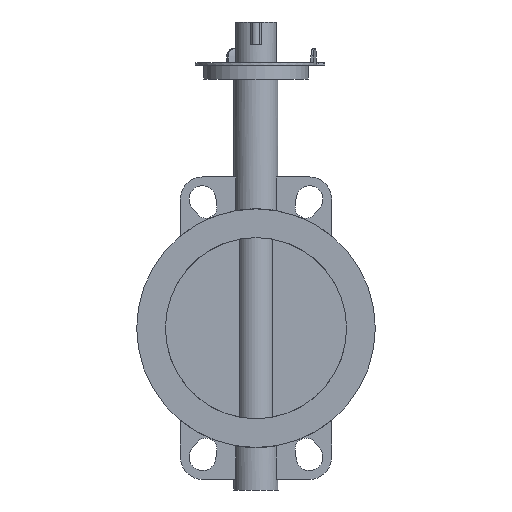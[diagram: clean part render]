
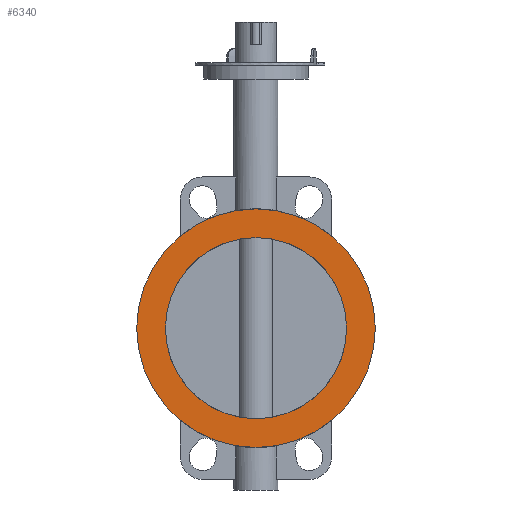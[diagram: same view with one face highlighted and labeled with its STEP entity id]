
A CAD part, left-side view. The second image highlights one B-rep face of the part: STEP entity #6340.
In plain terms, the highlighted planar face has unit normal (-1, 0, 0).
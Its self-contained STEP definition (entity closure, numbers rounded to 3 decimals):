
#6340=ADVANCED_FACE('',(#12821,#12823),#12825,.F.);
#12821=FACE_BOUND('',#12822,.T.);
#12822=EDGE_LOOP('',(#18083));
#12823=FACE_BOUND('',#12824,.T.);
#12824=EDGE_LOOP('',(#18084));
#12825=PLANE('',#12826);
#12826=AXIS2_PLACEMENT_3D('',#12827,#12828,#12829);
#12827=CARTESIAN_POINT('',(-28.,0.,0.));
#12828=DIRECTION('',(1.,0.,0.));
#12829=DIRECTION('',(0.,1.,0.));
#18083=ORIENTED_EDGE('',*,*,#20862,.F.);
#18084=ORIENTED_EDGE('',*,*,#21228,.T.);
#20862=EDGE_CURVE('',#24651,#24651,#24652,.T.);
#21228=EDGE_CURVE('',#25182,#25182,#25183,.T.);
#24651=VERTEX_POINT('',#33525);
#24652=CIRCLE('',#33526,102.5);
#25182=VERTEX_POINT('',#35103);
#25183=CIRCLE('',#35104,77.85);
#33525=CARTESIAN_POINT('',(-28.,102.5,0.));
#33526=AXIS2_PLACEMENT_3D('',#33527,#33528,#33529);
#33527=CARTESIAN_POINT('',(-28.,0.,0.));
#33528=DIRECTION('',(1.,0.,0.));
#33529=DIRECTION('',(0.,1.,0.));
#35103=CARTESIAN_POINT('',(-28.,77.85,0.));
#35104=AXIS2_PLACEMENT_3D('',#35105,#35106,#35107);
#35105=CARTESIAN_POINT('',(-28.,0.,0.));
#35106=DIRECTION('',(1.,0.,0.));
#35107=DIRECTION('',(0.,1.,0.));
